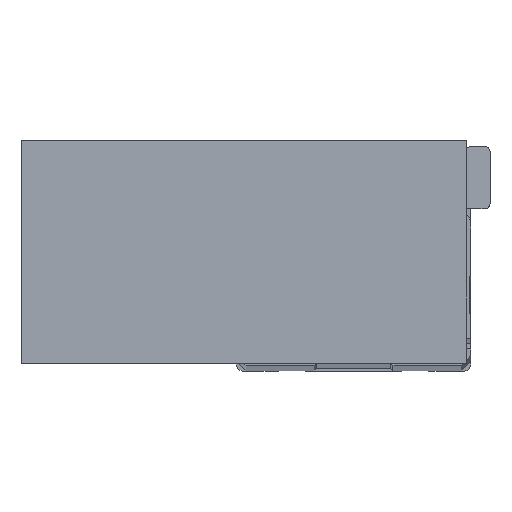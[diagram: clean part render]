
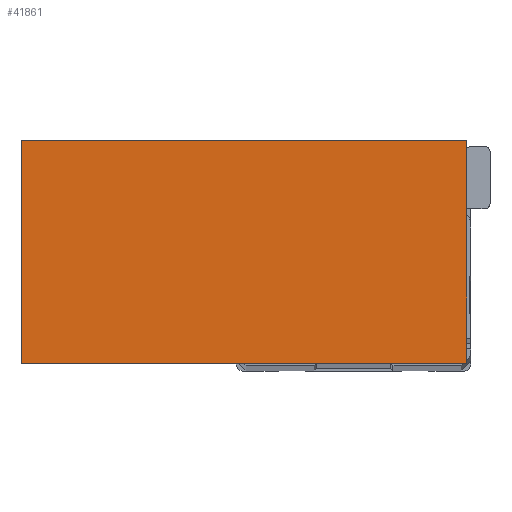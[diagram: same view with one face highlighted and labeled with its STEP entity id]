
A CAD part, top view. The second image highlights one B-rep face of the part: STEP entity #41861.
In plain terms, the highlighted planar face has unit normal (0, 0, 1) as drawn and (1, 0, 0) by its records, which use the part's own axes.
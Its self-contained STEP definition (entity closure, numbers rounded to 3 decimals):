
#97 = VERTEX_POINT ( 'NONE', #23788 ) ;
#687 = DIRECTION ( 'NONE',  ( 0., 1., 0. ) ) ;
#1917 = FACE_OUTER_BOUND ( 'NONE', #16708, .T. ) ;
#4846 = EDGE_CURVE ( 'NONE', #18416, #26751, #13630, .T. ) ;
#8022 = CARTESIAN_POINT ( 'NONE',  ( 45., 90., 180. ) ) ;
#8636 = DIRECTION ( 'NONE',  ( -1., 0., 0. ) ) ;
#10500 = ORIENTED_EDGE ( 'NONE', *, *, #4846, .T. ) ;
#10801 = LINE ( 'NONE', #30266, #28500 ) ;
#12442 = CARTESIAN_POINT ( 'NONE',  ( 45., 0., 180. ) ) ;
#13589 = LINE ( 'NONE', #8022, #28752 ) ;
#13630 = LINE ( 'NONE', #32867, #21665 ) ;
#14278 = ORIENTED_EDGE ( 'NONE', *, *, #17792, .F. ) ;
#15195 = CARTESIAN_POINT ( 'NONE',  ( 45., 90., 0. ) ) ;
#16708 = EDGE_LOOP ( 'NONE', ( #10500, #14278, #21633, #30108 ) ) ;
#17509 = LINE ( 'NONE', #20104, #18521 ) ;
#17792 = EDGE_CURVE ( 'NONE', #41080, #26751, #13589, .T. ) ;
#17800 = DIRECTION ( 'NONE',  ( 0., 0., -1. ) ) ;
#18416 = VERTEX_POINT ( 'NONE', #18715 ) ;
#18521 = VECTOR ( 'NONE', #36428, 1000. ) ;
#18715 = CARTESIAN_POINT ( 'NONE',  ( 45., 0., 0. ) ) ;
#20104 = CARTESIAN_POINT ( 'NONE',  ( 45., 0., 180. ) ) ;
#20337 = DIRECTION ( 'NONE',  ( 0., 0., -1. ) ) ;
#20904 = EDGE_CURVE ( 'NONE', #97, #41080, #17509, .T. ) ;
#21633 = ORIENTED_EDGE ( 'NONE', *, *, #20904, .F. ) ;
#21665 = VECTOR ( 'NONE', #687, 1000. ) ;
#22409 = EDGE_CURVE ( 'NONE', #97, #18416, #10801, .T. ) ;
#22894 = CARTESIAN_POINT ( 'NONE',  ( 45., 90., 180. ) ) ;
#23788 = CARTESIAN_POINT ( 'NONE',  ( 45., 0., 180. ) ) ;
#26751 = VERTEX_POINT ( 'NONE', #15195 ) ;
#28500 = VECTOR ( 'NONE', #20337, 1000. ) ;
#28752 = VECTOR ( 'NONE', #17800, 1000. ) ;
#30108 = ORIENTED_EDGE ( 'NONE', *, *, #22409, .T. ) ;
#30266 = CARTESIAN_POINT ( 'NONE',  ( 45., 0., 180. ) ) ;
#32867 = CARTESIAN_POINT ( 'NONE',  ( 45., 0., 0. ) ) ;
#34542 = PLANE ( 'NONE',  #41022 ) ;
#36428 = DIRECTION ( 'NONE',  ( 0., 1., 0. ) ) ;
#38352 = DIRECTION ( 'NONE',  ( 0., 0., 1. ) ) ;
#41022 = AXIS2_PLACEMENT_3D ( 'NONE', #12442, #8636, #38352 ) ;
#41080 = VERTEX_POINT ( 'NONE', #22894 ) ;
#41861 = ADVANCED_FACE ( 'NONE', ( #1917 ), #34542, .F. ) ;
